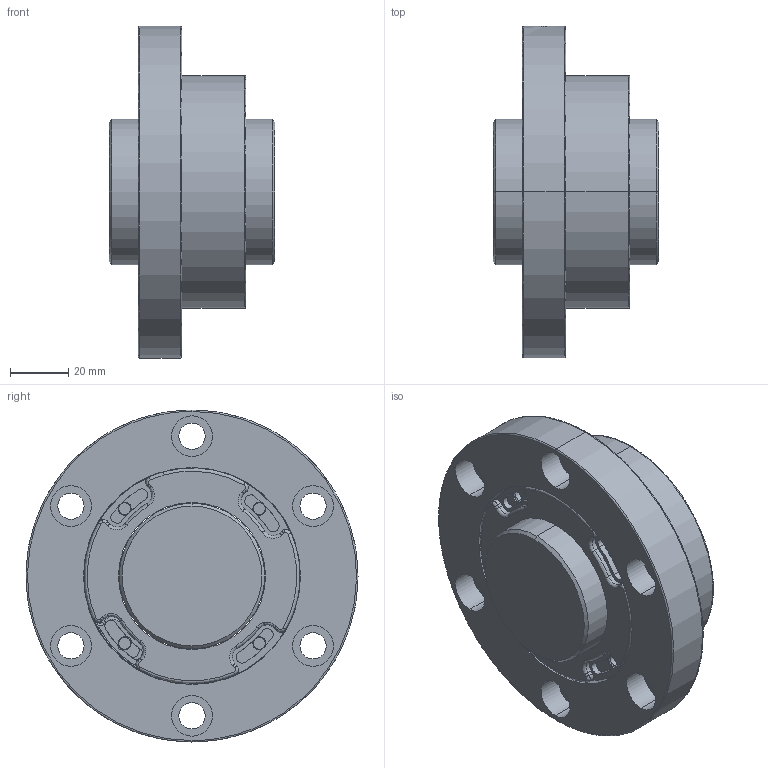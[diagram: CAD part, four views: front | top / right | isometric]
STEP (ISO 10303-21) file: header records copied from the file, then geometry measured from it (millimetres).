
FILE_DESCRIPTION (( 'STEP AP203' ), '1' );
FILE_NAME ('SFVSR05005C1N-C.STEP', '2020-06-17T05:36:00', ( '' ), ( '' ), 'SwSTEP 2.0', 'SolidWorks 2013', '' );
FILE_SCHEMA (( 'CONFIG_CONTROL_DESIGN' ));
Length unit declared in the file: millimetre
Products named in the file (1): SFVSR05005C1N-C
Bounding box: 57 x 114 x 114 mm (x, y, z)
Volume: 281928.8 mm3; surface area: 55412.3 mm2
Topology: 2 solids, 2 shells, 375 faces, 894 edges, 552 vertices
Faces by surface type: cylinder 192, plane 95, bspline 68, cone 20
Entity records: 12661 total; most frequent: CARTESIAN_POINT 3850, DIRECTION 1974, ORIENTED_EDGE 1788, EDGE_CURVE 894, AXIS2_PLACEMENT_3D 850, VERTEX_POINT 552, CIRCLE 542, EDGE_LOOP 422
